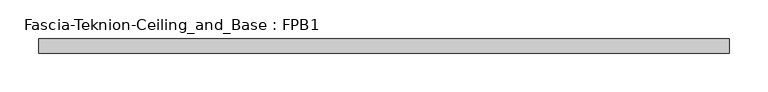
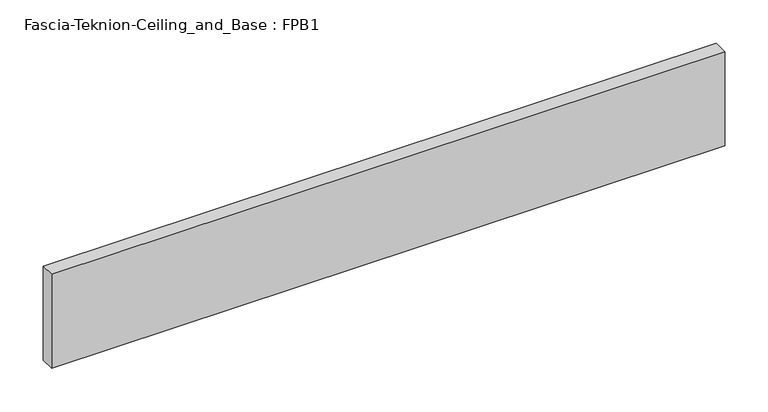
"""IFC4 building model written with IfcOpenShell, lengths in millimetres: proxy geometry, Fascia-Teknion-Ceiling_and_Base : FPB1."""

from ifc_helpers import new_model, si_unit, origin, origin_with_axes, place, context, project, spatial, polyline, outline, extrude, source, transform, mapped, element, save


def fascia_teknion_ceiling_and_base_fpb1_b9f04170(model_context):
    return source(origin(), model_context, "Body", "SweptSolid", [
        extrude(outline(polyline([(447.0356344, 0.0), (447.0356344, -19.05), (-447.0356344, -19.05), (-447.0356344, 0.0), (447.0356344, 0.0)])), origin_with_axes(), (0.0, 0.0, 1.0), 132.08),
    ])


if __name__ == "__main__":
    model = new_model("IFC4")
    model_context = context("Model", 3, world=origin())
    ifc_project = project(units=[si_unit("LENGTHUNIT", "METRE", prefix="MILLI")], contexts=[model_context])
    site = spatial("IfcSite", under=ifc_project)
    building = spatial("IfcBuilding", under=site)
    placement = place(None, origin())
    fascia_teknion_ceiling_and_base_fpb1_shape = fascia_teknion_ceiling_and_base_fpb1_b9f04170(model_context)
    element("IfcBuildingElementProxy", 1, Name="Fascia-Teknion-Ceiling_and_Base : FPB1", ObjectType="Fascia-Teknion-Ceiling_and_Base : FPB1", at=placement, inside=building, context=model_context, shape_type="MappedRepresentation", body=[
        mapped(fascia_teknion_ceiling_and_base_fpb1_shape, transform((0.0, 0.0, 0.0), x_axis=(1.0, 0.0, 0.0), y_axis=(0.0, 1.0, 0.0), z_axis=(0.0, 0.0, 1.0))),
    ])
    save(model, "model.ifc")
